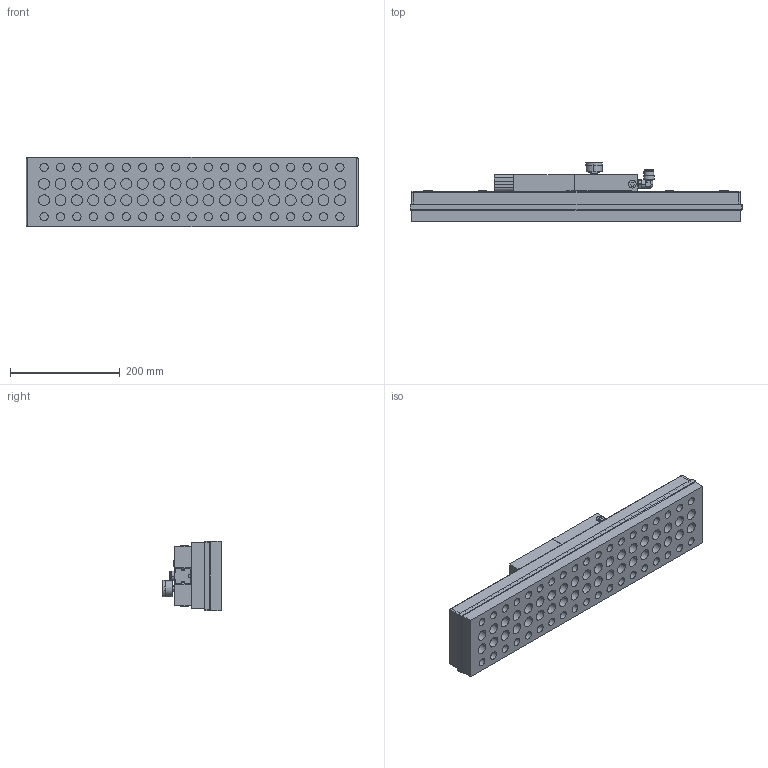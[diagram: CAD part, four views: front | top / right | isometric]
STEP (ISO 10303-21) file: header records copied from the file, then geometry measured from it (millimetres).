
FILE_DESCRIPTION (( 'STEP AP214' ), '1' );
FILE_NAME ('3-9-15180.STEP', '2012-09-13T06:08:34', ( 'cad' ), ( 'Microsoft' ), 'SwSTEP 2.0', 'SolidWorks 2012', '' );
FILE_SCHEMA (( 'AUTOMOTIVE_DESIGN' ));
Length unit declared in the file: millimetre
Products named in the file (1): 3-9-15180
Bounding box: 606 x 107 x 126 mm (x, y, z)
Volume: 4450648.4 mm3; surface area: 390883.4 mm2
Topology: 1 solids, 1 shells, 671 faces, 1528 edges, 976 vertices
Faces by surface type: plane 351, cylinder 271, cone 40, bspline 8, sphere 1
Entity records: 25652 total; most frequent: CARTESIAN_POINT 3686, DIRECTION 3374, ORIENTED_EDGE 3056, EDGE_CURVE 1528, AXIS2_PLACEMENT_3D 1248, VERTEX_POINT 976, VECTOR 878, LINE 878
